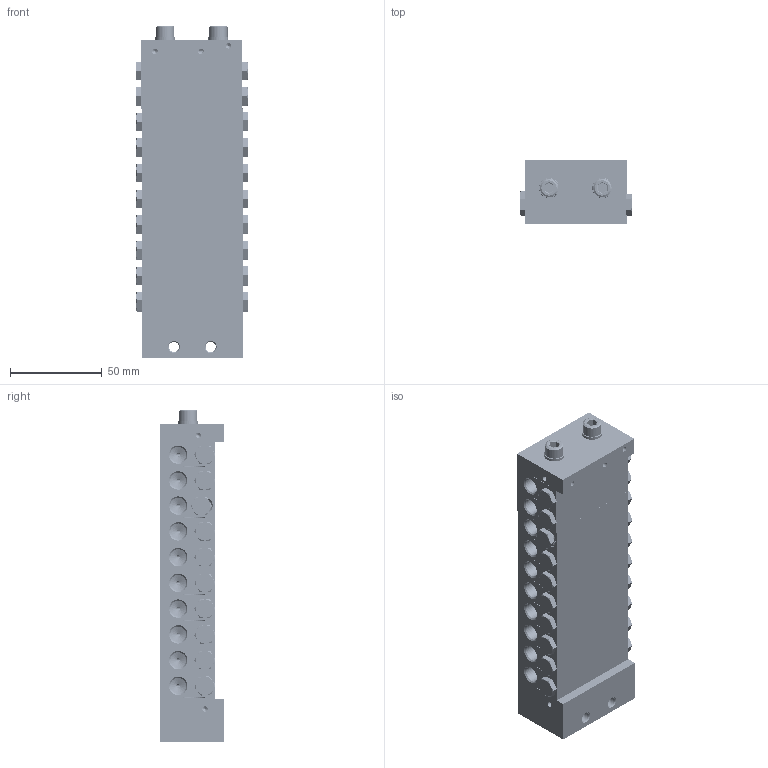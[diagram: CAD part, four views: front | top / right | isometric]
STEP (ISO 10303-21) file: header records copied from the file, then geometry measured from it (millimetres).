
FILE_DESCRIPTION (( 'STEP AP214' ), '1' );
FILE_NAME ('STW_XV_20_Auslässe.STEP', '2025-09-16T11:43:13', ( '' ), ( '' ), 'SwSTEP 2.0', 'SolidWorks 2022', '' );
FILE_SCHEMA (( 'AUTOMOTIVE_DESIGN' ));
Length unit declared in the file: millimetre
Products named in the file (10): STW_XV_20_Auslässe; U_Scheibe_6; Verschlussstopfen_1_8; STW_XV_ENGANG; STW_XV_MITTEL_1; M6X65_DIN_912; O_RING_3X1; STW_XV_Kolbenanschlag; STW_XV_Verbindungsstopen; STW_XV_END
Assembly tree (70 placements, depth 2):
  STW_XV_20_Auslässe
    STW_XV_ENGANG
    O_RING_3X1  x4
    STW_XV_MITTEL_1  x10
    STW_XV_END
    Verschlussstopfen_1_8  x20
    STW_XV_Kolbenanschlag  x20
    STW_XV_Verbindungsstopen  x10
    M6X65_DIN_912  x2
    U_Scheibe_6  x2
Bounding box: 61.32 x 35.03 x 180.48 mm (x, y, z)
Volume: 265141.7 mm3; surface area: 135315.1 mm2
Topology: 70 solids, 70 shells, 2735 faces, 7242 edges, 4636 vertices
Faces by surface type: plane 1262, cylinder 778, cone 575, bspline 120
Full cylindrical faces by diameter (mm): 2 x257, 3 x17, 5 x101, 5.5 x2, 5.9 x2, 6 x2, 6.2 x22, 6.4 x2, 6.5 x20, 7 x20, 8 x20, 8.4 x10, 8.6 x50, 9 x21, 9.7 x20, 9.73 x10, 10 x22, 11 x2, 15 x1
Entity records: 30112 total; most frequent: CARTESIAN_POINT 17221, ORIENTED_EDGE 2526, DIRECTION 2137, EDGE_CURVE 1263, VERTEX_POINT 896, EDGE_LOOP 821, AXIS2_PLACEMENT_3D 733, LINE 671
